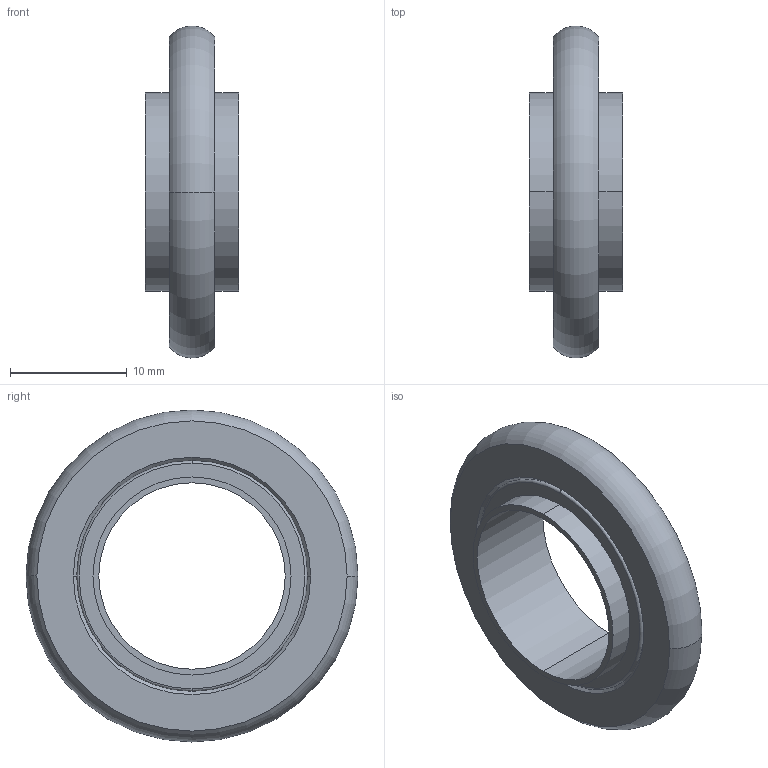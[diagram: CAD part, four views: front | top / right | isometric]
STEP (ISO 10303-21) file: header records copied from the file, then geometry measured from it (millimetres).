
FILE_DESCRIPTION((''),'2;1');
FILE_NAME('ASM0008_SW0001','2015-09-29T',('l0100062'),('Copyright by Leybold GmbH'),'PRO/ENGINEER BY PARAMETRIC TECHNOLOGY CORPORATION, 2015030','PRO/ENGINEER BY PARAMETRIC TECHNOLOGY CORPORATION, 2015030','');
FILE_SCHEMA(('AUTOMOTIVE_DESIGN { 1 0 10303 214 1 1 1 1 }'));
Length unit declared in the file: millimetre
Products named in the file (1): ASM0008_SW0001
Bounding box: 8 x 28.49 x 28.49 mm (x, y, z)
Volume: 1706.8 mm3; surface area: 1778.8 mm2
Topology: 1 solids, 1 shells, 22 faces, 48 edges, 32 vertices
Faces by surface type: plane 6, cylinder 6, revolution 6, torus 4
Entity records: 1068 total; most frequent: CARTESIAN_POINT 282, DIRECTION 116, ORIENTED_EDGE 96, AXIS2_PLACEMENT_3D 52, EDGE_CURVE 48, COLOUR_RGB 47, CIRCLE 36, VERTEX_POINT 32
